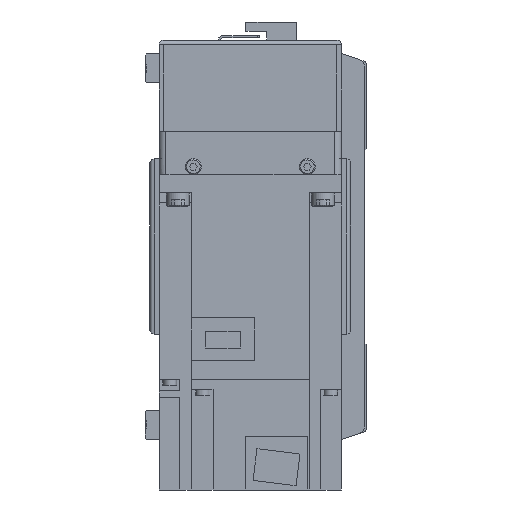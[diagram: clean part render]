
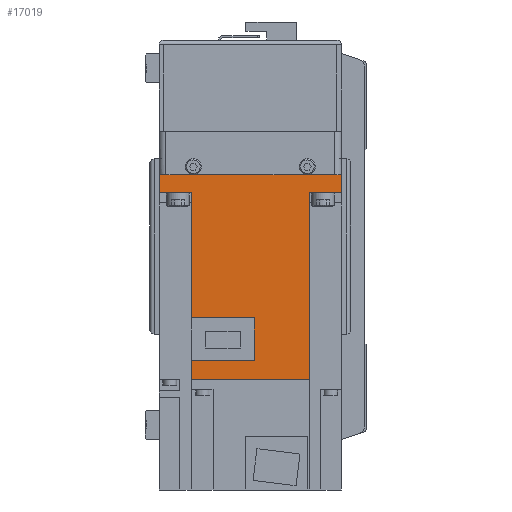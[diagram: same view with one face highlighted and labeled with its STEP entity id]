
A CAD part, left-side view. The second image highlights one B-rep face of the part: STEP entity #17019.
In plain terms, the highlighted planar face has unit normal (-1, 0, 0) as drawn and (1, 0, 0) by its records, which use the part's own axes.
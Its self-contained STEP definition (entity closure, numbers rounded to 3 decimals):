
#1867=ORIENTED_EDGE('',*,*,#6555,.F.);
#1868=ORIENTED_EDGE('',*,*,#6556,.F.);
#1869=ORIENTED_EDGE('',*,*,#6557,.F.);
#1870=ORIENTED_EDGE('',*,*,#6558,.T.);
#1871=ORIENTED_EDGE('',*,*,#6559,.F.);
#1872=ORIENTED_EDGE('',*,*,#6560,.T.);
#1873=ORIENTED_EDGE('',*,*,#6561,.T.);
#1874=ORIENTED_EDGE('',*,*,#6562,.F.);
#1875=ORIENTED_EDGE('',*,*,#6563,.F.);
#1876=ORIENTED_EDGE('',*,*,#6564,.F.);
#1877=ORIENTED_EDGE('',*,*,#6565,.F.);
#1878=ORIENTED_EDGE('',*,*,#6566,.F.);
#6555=EDGE_CURVE('',#8959,#8960,#10645,.T.);
#6556=EDGE_CURVE('',#8961,#8959,#10646,.T.);
#6557=EDGE_CURVE('',#8962,#8961,#10647,.T.);
#6558=EDGE_CURVE('',#8962,#8963,#10648,.T.);
#6559=EDGE_CURVE('',#8964,#8963,#10649,.T.);
#6560=EDGE_CURVE('',#8964,#8965,#10650,.T.);
#6561=EDGE_CURVE('',#8965,#8966,#10651,.T.);
#6562=EDGE_CURVE('',#8967,#8966,#10652,.T.);
#6563=EDGE_CURVE('',#8968,#8967,#10653,.T.);
#6564=EDGE_CURVE('',#8969,#8968,#10654,.T.);
#6565=EDGE_CURVE('',#8970,#8969,#10655,.T.);
#6566=EDGE_CURVE('',#8960,#8970,#10656,.T.);
#8959=VERTEX_POINT('',#25636);
#8960=VERTEX_POINT('',#25637);
#8961=VERTEX_POINT('',#25639);
#8962=VERTEX_POINT('',#25641);
#8963=VERTEX_POINT('',#25643);
#8964=VERTEX_POINT('',#25645);
#8965=VERTEX_POINT('',#25647);
#8966=VERTEX_POINT('',#25649);
#8967=VERTEX_POINT('',#25651);
#8968=VERTEX_POINT('',#25653);
#8969=VERTEX_POINT('',#25655);
#8970=VERTEX_POINT('',#25657);
#10645=LINE('',#25635,#12261);
#10646=LINE('',#25638,#12262);
#10647=LINE('',#25640,#12263);
#10648=LINE('',#25642,#12264);
#10649=LINE('',#25644,#12265);
#10650=LINE('',#25646,#12266);
#10651=LINE('',#25648,#12267);
#10652=LINE('',#25650,#12268);
#10653=LINE('',#25652,#12269);
#10654=LINE('',#25654,#12270);
#10655=LINE('',#25656,#12271);
#10656=LINE('',#25658,#12272);
#12261=VECTOR('',#20433,1000.);
#12262=VECTOR('',#20434,1000.);
#12263=VECTOR('',#20435,1000.);
#12264=VECTOR('',#20436,1000.);
#12265=VECTOR('',#20437,1000.);
#12266=VECTOR('',#20438,1000.);
#12267=VECTOR('',#20439,1000.);
#12268=VECTOR('',#20440,1000.);
#12269=VECTOR('',#20441,1000.);
#12270=VECTOR('',#20442,1000.);
#12271=VECTOR('',#20443,1000.);
#12272=VECTOR('',#20444,1000.);
#13869=EDGE_LOOP('',(#1867,#1868,#1869,#1870,#1871,#1872,#1873,#1874,#1875,
#1876,#1877,#1878));
#15151=FACE_BOUND('',#13869,.T.);
#16326=PLANE('',#18201);
#17019=ADVANCED_FACE('',(#15151),#16326,.F.);
#18201=AXIS2_PLACEMENT_3D('',#25634,#20431,#20432);
#20431=DIRECTION('',(-1.,0.,0.));
#20432=DIRECTION('',(0.,0.,1.));
#20433=DIRECTION('',(0.,0.,1.));
#20434=DIRECTION('',(0.,-1.,0.));
#20435=DIRECTION('',(0.,0.,-1.));
#20436=DIRECTION('',(0.,-1.,0.));
#20437=DIRECTION('',(0.,0.,-1.));
#20438=DIRECTION('',(0.,-1.,0.));
#20439=DIRECTION('',(0.,0.,-1.));
#20440=DIRECTION('',(0.,-1.,0.));
#20441=DIRECTION('',(0.,0.,-1.));
#20442=DIRECTION('',(0.,-1.,0.));
#20443=DIRECTION('',(0.,0.,-1.));
#20444=DIRECTION('',(0.,-1.,0.));
#25634=CARTESIAN_POINT('',(40.,89.8,40.));
#25635=CARTESIAN_POINT('',(40.,81.4,-26.));
#25636=CARTESIAN_POINT('',(40.,81.4,-25.95));
#25637=CARTESIAN_POINT('',(40.,81.4,1.8));
#25638=CARTESIAN_POINT('',(40.,158.,-25.95));
#25639=CARTESIAN_POINT('',(40.,89.8,-25.95));
#25640=CARTESIAN_POINT('',(40.,89.8,40.));
#25641=CARTESIAN_POINT('',(40.,89.8,25.95));
#25642=CARTESIAN_POINT('',(40.,158.,25.95));
#25643=CARTESIAN_POINT('',(40.,8.,25.95));
#25644=CARTESIAN_POINT('',(40.,8.,40.));
#25645=CARTESIAN_POINT('',(40.,8.,40.));
#25646=CARTESIAN_POINT('',(40.,89.8,40.));
#25647=CARTESIAN_POINT('',(40.,0.,40.));
#25648=CARTESIAN_POINT('',(40.,0.,40.));
#25649=CARTESIAN_POINT('',(40.,0.,-40.));
#25650=CARTESIAN_POINT('',(40.,89.8,-40.));
#25651=CARTESIAN_POINT('',(40.,8.,-40.));
#25652=CARTESIAN_POINT('',(40.,8.,40.));
#25653=CARTESIAN_POINT('',(40.,8.,-25.95));
#25654=CARTESIAN_POINT('',(40.,158.,-25.95));
#25655=CARTESIAN_POINT('',(40.,62.8,-25.95));
#25656=CARTESIAN_POINT('',(40.,62.8,1.8));
#25657=CARTESIAN_POINT('',(40.,62.8,1.8));
#25658=CARTESIAN_POINT('',(40.,81.4,1.8));
